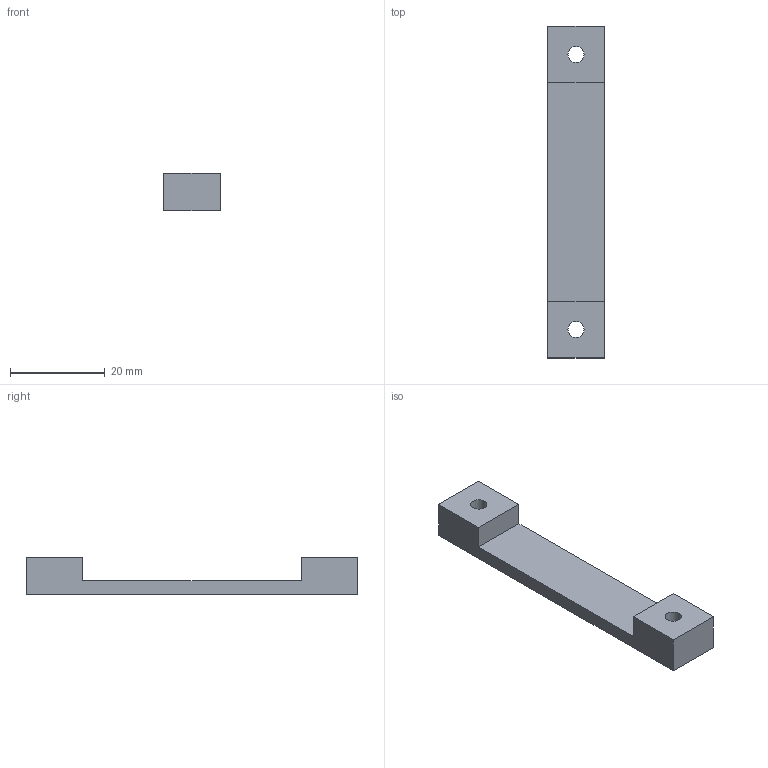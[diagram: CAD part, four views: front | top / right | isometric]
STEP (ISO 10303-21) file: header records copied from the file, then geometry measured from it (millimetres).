
FILE_DESCRIPTION(('Open CASCADE Model'),'2;1');
FILE_NAME('Open CASCADE Shape Model','2026-10-07T15:46:24',('Author'),( 'Open CASCADE'),'Open CASCADE STEP processor 7.9','Open CASCADE 7.9' ,'Unknown');
FILE_SCHEMA(('AUTOMOTIVE_DESIGN { 1 0 10303 214 1 1 1 1 }'));
Length unit declared in the file: millimetre
Products named in the file (1): Open CASCADE STEP translator 7.9 8
Bounding box: 12 x 70 x 8 mm (x, y, z)
Volume: 3814.7 mm3; surface area: 2786.6 mm2
Topology: 1 solids, 1 shells, 12 faces, 30 edges, 20 vertices
Faces by surface type: plane 10, cylinder 2
Full cylindrical faces by diameter (mm): 3.4 x2
Entity records: 774 total; most frequent: CARTESIAN_POINT 151, DIRECTION 112, LINE 78, VECTOR 78, ORIENTED_EDGE 60, PCURVE 60, DEFINITIONAL_REPRESENTATION 60, EDGE_CURVE 30
